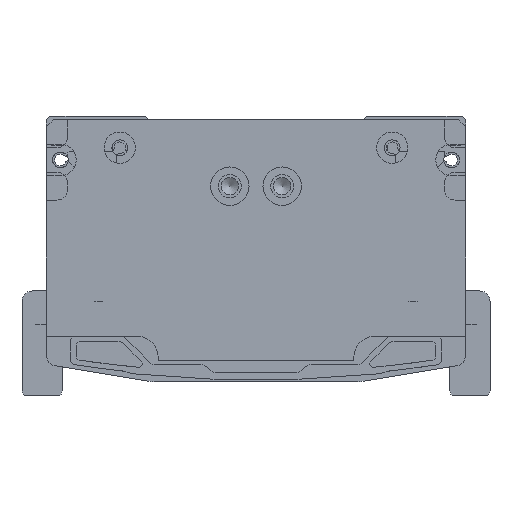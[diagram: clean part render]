
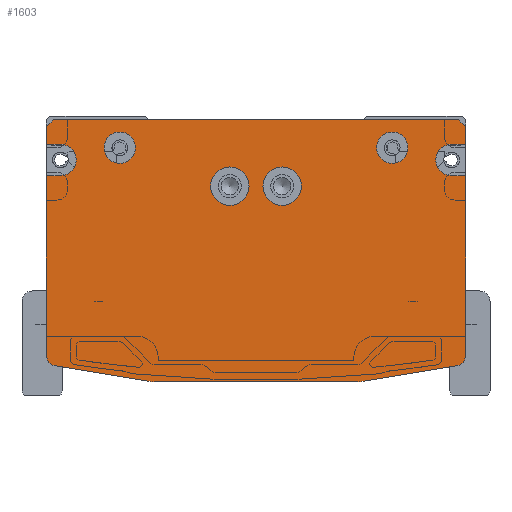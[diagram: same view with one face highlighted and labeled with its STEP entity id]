
A CAD part, front view. The second image highlights one B-rep face of the part: STEP entity #1603.
In plain terms, the highlighted planar face has unit normal (0, -1, 0).
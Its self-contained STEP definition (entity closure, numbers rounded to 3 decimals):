
#1603=ADVANCED_FACE('',(#2699,#2700,#2701,#2702,#2703),#2241,.F.);
#2241=PLANE('',#16026);
#2699=FACE_BOUND('',#3809,.T.);
#2700=FACE_BOUND('',#3810,.T.);
#2701=FACE_BOUND('',#3811,.T.);
#2702=FACE_BOUND('',#3812,.T.);
#2703=FACE_BOUND('',#3813,.T.);
#3809=EDGE_LOOP('',(#7494));
#3810=EDGE_LOOP('',(#7495));
#3811=EDGE_LOOP('',(#7496,#7497,#7498,#7499,#7500,#7501,#7502,#7503,#7504,
#7505,#7506,#7507,#7508,#7509,#7510,#7511,#7512,#7513,#7514,#7515));
#3812=EDGE_LOOP('',(#7516));
#3813=EDGE_LOOP('',(#7517));
#4925=CIRCLE('',#15927,5.5);
#4929=CIRCLE('',#15934,5.5);
#4932=CIRCLE('',#15940,4.5);
#4936=CIRCLE('',#15947,4.5);
#4943=CIRCLE('',#15965,4.5);
#4946=CIRCLE('',#15974,3.);
#4949=CIRCLE('',#15979,10.);
#4950=CIRCLE('',#15982,10.);
#4953=CIRCLE('',#15987,3.);
#4961=CIRCLE('',#16014,4.5);
#7494=ORIENTED_EDGE('',*,*,#12160,.T.);
#7495=ORIENTED_EDGE('',*,*,#12164,.T.);
#7496=ORIENTED_EDGE('',*,*,#12225,.T.);
#7497=ORIENTED_EDGE('',*,*,#12221,.F.);
#7498=ORIENTED_EDGE('',*,*,#12219,.F.);
#7499=ORIENTED_EDGE('',*,*,#12216,.F.);
#7500=ORIENTED_EDGE('',*,*,#12212,.T.);
#7501=ORIENTED_EDGE('',*,*,#12209,.T.);
#7502=ORIENTED_EDGE('',*,*,#11866,.F.);
#7503=ORIENTED_EDGE('',*,*,#12195,.T.);
#7504=ORIENTED_EDGE('',*,*,#12192,.T.);
#7505=ORIENTED_EDGE('',*,*,#12190,.F.);
#7506=ORIENTED_EDGE('',*,*,#11862,.F.);
#7507=ORIENTED_EDGE('',*,*,#12186,.T.);
#7508=ORIENTED_EDGE('',*,*,#11837,.F.);
#7509=ORIENTED_EDGE('',*,*,#12184,.T.);
#7510=ORIENTED_EDGE('',*,*,#11608,.F.);
#7511=ORIENTED_EDGE('',*,*,#12260,.T.);
#7512=ORIENTED_EDGE('',*,*,#12257,.T.);
#7513=ORIENTED_EDGE('',*,*,#12255,.F.);
#7514=ORIENTED_EDGE('',*,*,#11604,.F.);
#7515=ORIENTED_EDGE('',*,*,#12228,.T.);
#7516=ORIENTED_EDGE('',*,*,#12171,.F.);
#7517=ORIENTED_EDGE('',*,*,#12167,.F.);
#9996=VERTEX_POINT('',#23133);
#9997=VERTEX_POINT('',#23135);
#10000=VERTEX_POINT('',#23141);
#10001=VERTEX_POINT('',#23143);
#10116=VERTEX_POINT('',#23895);
#10117=VERTEX_POINT('',#23897);
#10132=VERTEX_POINT('',#23943);
#10133=VERTEX_POINT('',#23945);
#10136=VERTEX_POINT('',#23951);
#10137=VERTEX_POINT('',#23953);
#10336=VERTEX_POINT('',#25042);
#10340=VERTEX_POINT('',#25053);
#10343=VERTEX_POINT('',#25062);
#10346=VERTEX_POINT('',#25072);
#10354=VERTEX_POINT('',#25107);
#10356=VERTEX_POINT('',#25114);
#10367=VERTEX_POINT('',#25148);
#10369=VERTEX_POINT('',#25154);
#10372=VERTEX_POINT('',#25162);
#10374=VERTEX_POINT('',#25168);
#10375=VERTEX_POINT('',#25172);
#10378=VERTEX_POINT('',#25180);
#10390=VERTEX_POINT('',#25239);
#10392=VERTEX_POINT('',#25246);
#11604=EDGE_CURVE('',#9996,#9997,#13341,.T.);
#11608=EDGE_CURVE('',#10000,#10001,#13345,.T.);
#11837=EDGE_CURVE('',#10116,#10117,#13469,.T.);
#11862=EDGE_CURVE('',#10132,#10133,#13494,.T.);
#11866=EDGE_CURVE('',#10136,#10137,#13498,.T.);
#12160=EDGE_CURVE('',#10336,#10336,#4925,.T.);
#12164=EDGE_CURVE('',#10340,#10340,#4929,.T.);
#12167=EDGE_CURVE('',#10343,#10343,#4932,.T.);
#12171=EDGE_CURVE('',#10346,#10346,#4936,.T.);
#12184=EDGE_CURVE('',#10116,#10001,#13672,.T.);
#12186=EDGE_CURVE('',#10132,#10117,#13674,.T.);
#12190=EDGE_CURVE('',#10133,#10354,#13678,.T.);
#12192=EDGE_CURVE('',#10356,#10354,#4943,.T.);
#12195=EDGE_CURVE('',#10136,#10356,#13681,.T.);
#12209=EDGE_CURVE('',#10367,#10137,#4946,.T.);
#12212=EDGE_CURVE('',#10369,#10367,#13694,.T.);
#12216=EDGE_CURVE('',#10369,#10372,#4949,.T.);
#12219=EDGE_CURVE('',#10372,#10374,#13699,.T.);
#12221=EDGE_CURVE('',#10374,#10375,#4950,.T.);
#12225=EDGE_CURVE('',#10378,#10375,#13703,.T.);
#12228=EDGE_CURVE('',#9996,#10378,#4953,.T.);
#12255=EDGE_CURVE('',#9997,#10390,#13725,.T.);
#12257=EDGE_CURVE('',#10392,#10390,#4961,.T.);
#12260=EDGE_CURVE('',#10000,#10392,#13728,.T.);
#13341=LINE('',#23134,#14403);
#13345=LINE('',#23142,#14407);
#13469=LINE('',#23896,#14531);
#13494=LINE('',#23944,#14556);
#13498=LINE('',#23952,#14560);
#13672=LINE('',#25099,#14734);
#13674=LINE('',#25102,#14736);
#13678=LINE('',#25109,#14740);
#13681=LINE('',#25118,#14743);
#13694=LINE('',#25153,#14756);
#13699=LINE('',#25167,#14761);
#13703=LINE('',#25179,#14765);
#13725=LINE('',#25241,#14787);
#13728=LINE('',#25250,#14790);
#14403=VECTOR('',#17899,1.);
#14407=VECTOR('',#17903,1.);
#14531=VECTOR('',#18323,1.);
#14556=VECTOR('',#18362,1.);
#14560=VECTOR('',#18366,1.);
#14734=VECTOR('',#19126,1.);
#14736=VECTOR('',#19130,1.);
#14740=VECTOR('',#19136,1.);
#14743=VECTOR('',#19147,1.);
#14756=VECTOR('',#19180,1.);
#14761=VECTOR('',#19193,1.);
#14765=VECTOR('',#19205,1.);
#14787=VECTOR('',#19281,1.);
#14790=VECTOR('',#19292,1.);
#15927=AXIS2_PLACEMENT_3D('',#25041,#19051,#19052);
#15934=AXIS2_PLACEMENT_3D('',#25052,#19065,#19066);
#15940=AXIS2_PLACEMENT_3D('',#25061,#19077,#19078);
#15947=AXIS2_PLACEMENT_3D('',#25071,#19091,#19092);
#15965=AXIS2_PLACEMENT_3D('',#25113,#19141,#19142);
#15974=AXIS2_PLACEMENT_3D('',#25147,#19173,#19174);
#15979=AXIS2_PLACEMENT_3D('',#25161,#19187,#19188);
#15982=AXIS2_PLACEMENT_3D('',#25171,#19197,#19198);
#15987=AXIS2_PLACEMENT_3D('',#25184,#19211,#19212);
#16014=AXIS2_PLACEMENT_3D('',#25245,#19286,#19287);
#16026=AXIS2_PLACEMENT_3D('',#25267,#19317,#19318);
#17899=DIRECTION('',(0.,0.,1.));
#17903=DIRECTION('',(0.,0.,1.));
#18323=DIRECTION('',(1.,0.,0.));
#18362=DIRECTION('',(0.,0.,-1.));
#18366=DIRECTION('',(0.,0.,-1.));
#19051=DIRECTION('',(0.,1.,0.));
#19052=DIRECTION('',(1.,0.,0.));
#19065=DIRECTION('',(0.,1.,0.));
#19066=DIRECTION('',(1.,0.,0.));
#19077=DIRECTION('',(0.,-1.,0.));
#19078=DIRECTION('',(1.,0.,0.));
#19091=DIRECTION('',(0.,-1.,0.));
#19092=DIRECTION('',(1.,0.,0.));
#19126=DIRECTION('',(-0.707,0.,-0.707));
#19130=DIRECTION('',(-0.707,0.,0.707));
#19136=DIRECTION('',(-1.,0.,0.));
#19141=DIRECTION('',(0.,1.,0.));
#19142=DIRECTION('',(0.,0.,-1.));
#19147=DIRECTION('',(-1.,0.,0.));
#19173=DIRECTION('',(0.,-1.,0.));
#19174=DIRECTION('',(0.164,0.,-0.986));
#19180=DIRECTION('',(0.986,0.,0.164));
#19187=DIRECTION('',(0.,1.,0.));
#19188=DIRECTION('',(0.164,0.,-0.986));
#19193=DIRECTION('',(-1.,0.,0.));
#19197=DIRECTION('',(0.,1.,0.));
#19198=DIRECTION('',(0.,0.,-1.));
#19205=DIRECTION('',(0.986,0.,-0.164));
#19211=DIRECTION('',(0.,-1.,0.));
#19212=DIRECTION('',(-1.,0.,0.));
#19281=DIRECTION('',(1.,0.,0.));
#19286=DIRECTION('',(0.,1.,0.));
#19287=DIRECTION('',(0.,0.,1.));
#19292=DIRECTION('',(1.,0.,0.));
#19317=DIRECTION('',(0.,1.,0.));
#19318=DIRECTION('',(1.,0.,0.));
#23133=CARTESIAN_POINT('',(-60.,-1212.,-69.459));
#23134=CARTESIAN_POINT('',(-60.,-1212.,-69.459));
#23135=CARTESIAN_POINT('',(-60.,-1212.,-18.));
#23141=CARTESIAN_POINT('',(-60.,-1212.,-9.));
#23142=CARTESIAN_POINT('',(-60.,-1212.,-9.));
#23143=CARTESIAN_POINT('',(-60.,-1212.,-4.));
#23895=CARTESIAN_POINT('',(-58.,-1212.,-2.));
#23896=CARTESIAN_POINT('',(-58.,-1212.,-2.));
#23897=CARTESIAN_POINT('',(58.,-1212.,-2.));
#23943=CARTESIAN_POINT('',(60.,-1212.,-4.));
#23944=CARTESIAN_POINT('',(60.,-1212.,-4.));
#23945=CARTESIAN_POINT('',(60.,-1212.,-9.));
#23951=CARTESIAN_POINT('',(60.,-1212.,-18.));
#23952=CARTESIAN_POINT('',(60.,-1212.,-18.));
#23953=CARTESIAN_POINT('',(60.,-1212.,-69.459));
#25041=CARTESIAN_POINT('',(7.5,-1212.,-21.));
#25042=CARTESIAN_POINT('',(13.,-1212.,-21.));
#25052=CARTESIAN_POINT('',(-7.5,-1212.,-21.));
#25053=CARTESIAN_POINT('',(-2.,-1212.,-21.));
#25061=CARTESIAN_POINT('',(-39.,-1212.,-10.));
#25062=CARTESIAN_POINT('',(-34.5,-1212.,-10.));
#25071=CARTESIAN_POINT('',(39.,-1212.,-10.));
#25072=CARTESIAN_POINT('',(43.5,-1212.,-10.));
#25099=CARTESIAN_POINT('',(-58.,-1212.,-2.));
#25102=CARTESIAN_POINT('',(60.,-1212.,-4.));
#25107=CARTESIAN_POINT('',(56.,-1212.,-9.));
#25109=CARTESIAN_POINT('',(60.,-1212.,-9.));
#25113=CARTESIAN_POINT('',(56.,-1212.,-13.5));
#25114=CARTESIAN_POINT('',(56.,-1212.,-18.));
#25118=CARTESIAN_POINT('',(60.,-1212.,-18.));
#25147=CARTESIAN_POINT('',(57.,-1212.,-69.459));
#25148=CARTESIAN_POINT('',(57.493,-1212.,-72.418));
#25153=CARTESIAN_POINT('',(30.816,-1212.,-76.864));
#25154=CARTESIAN_POINT('',(30.816,-1212.,-76.864));
#25161=CARTESIAN_POINT('',(29.172,-1212.,-67.));
#25162=CARTESIAN_POINT('',(29.172,-1212.,-77.));
#25167=CARTESIAN_POINT('',(29.172,-1212.,-77.));
#25168=CARTESIAN_POINT('',(-29.172,-1212.,-77.));
#25171=CARTESIAN_POINT('',(-29.172,-1212.,-67.));
#25172=CARTESIAN_POINT('',(-30.816,-1212.,-76.864));
#25179=CARTESIAN_POINT('',(-57.493,-1212.,-72.418));
#25180=CARTESIAN_POINT('',(-57.493,-1212.,-72.418));
#25184=CARTESIAN_POINT('',(-57.,-1212.,-69.459));
#25239=CARTESIAN_POINT('',(-56.,-1212.,-18.));
#25241=CARTESIAN_POINT('',(-60.,-1212.,-18.));
#25245=CARTESIAN_POINT('',(-56.,-1212.,-13.5));
#25246=CARTESIAN_POINT('',(-56.,-1212.,-9.));
#25250=CARTESIAN_POINT('',(-60.,-1212.,-9.));
#25267=CARTESIAN_POINT('',(0.,-1212.,-2.));
